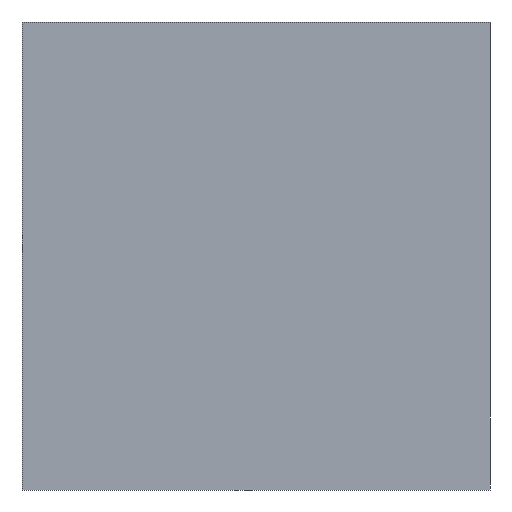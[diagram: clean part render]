
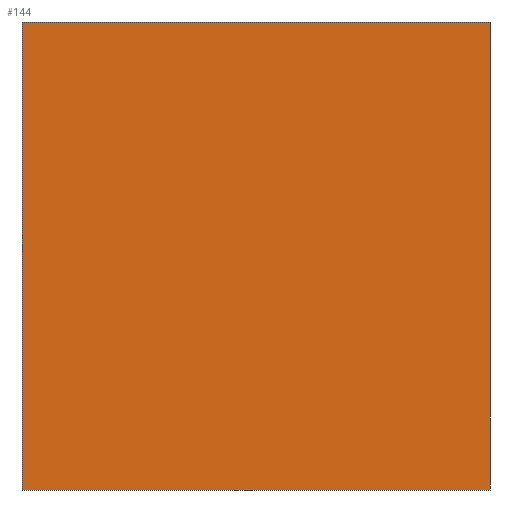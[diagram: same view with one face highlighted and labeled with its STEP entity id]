
A CAD part, front view. The second image highlights one B-rep face of the part: STEP entity #144.
In plain terms, the highlighted planar face has unit normal (0, -1, 0).
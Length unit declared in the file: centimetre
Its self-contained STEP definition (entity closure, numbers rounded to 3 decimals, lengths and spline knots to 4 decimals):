
#32 = VERTEX_POINT ( 'NONE', #571 ) ;
#52 = DIRECTION ( 'NONE',  ( 0., 0., -1. ) ) ;
#118 = CARTESIAN_POINT ( 'NONE',  ( 0., 0., 1000. ) ) ;
#121 = DIRECTION ( 'NONE',  ( 0., 0., 1. ) ) ;
#131 = CARTESIAN_POINT ( 'NONE',  ( 0., 0., 0. ) ) ;
#144 = ADVANCED_FACE ( 'NONE', ( #468 ), #356, .F. ) ;
#153 = EDGE_CURVE ( 'NONE', #32, #291, #396, .T. ) ;
#175 = VECTOR ( 'NONE', #410, 100. ) ;
#250 = EDGE_CURVE ( 'NONE', #32, #316, #312, .T. ) ;
#254 = VERTEX_POINT ( 'NONE', #361 ) ;
#257 = CARTESIAN_POINT ( 'NONE',  ( 0., 0., 1000. ) ) ;
#273 = CARTESIAN_POINT ( 'NONE',  ( 1000., 0., 1000. ) ) ;
#276 = CARTESIAN_POINT ( 'NONE',  ( 1000., 0., 1000. ) ) ;
#291 = VERTEX_POINT ( 'NONE', #131 ) ;
#306 = DIRECTION ( 'NONE',  ( 0., 1., 0. ) ) ;
#307 = CARTESIAN_POINT ( 'NONE',  ( 0., 0., 0. ) ) ;
#312 = LINE ( 'NONE', #118, #476 ) ;
#316 = VERTEX_POINT ( 'NONE', #276 ) ;
#343 = LINE ( 'NONE', #307, #175 ) ;
#356 = PLANE ( 'NONE',  #519 ) ;
#361 = CARTESIAN_POINT ( 'NONE',  ( 1000., 0., 0. ) ) ;
#373 = EDGE_CURVE ( 'NONE', #316, #254, #465, .T. ) ;
#389 = EDGE_LOOP ( 'NONE', ( #504, #499, #408, #494 ) ) ;
#396 = LINE ( 'NONE', #257, #510 ) ;
#408 = ORIENTED_EDGE ( 'NONE', *, *, #250, .F. ) ;
#410 = DIRECTION ( 'NONE',  ( 1., 0., 0. ) ) ;
#448 = VECTOR ( 'NONE', #52, 100. ) ;
#465 = LINE ( 'NONE', #273, #448 ) ;
#468 = FACE_OUTER_BOUND ( 'NONE', #389, .T. ) ;
#476 = VECTOR ( 'NONE', #578, 100. ) ;
#480 = EDGE_CURVE ( 'NONE', #291, #254, #343, .T. ) ;
#494 = ORIENTED_EDGE ( 'NONE', *, *, #153, .T. ) ;
#499 = ORIENTED_EDGE ( 'NONE', *, *, #373, .F. ) ;
#504 = ORIENTED_EDGE ( 'NONE', *, *, #480, .T. ) ;
#510 = VECTOR ( 'NONE', #545, 100. ) ;
#519 = AXIS2_PLACEMENT_3D ( 'NONE', #593, #306, #121 ) ;
#545 = DIRECTION ( 'NONE',  ( 0., 0., -1. ) ) ;
#571 = CARTESIAN_POINT ( 'NONE',  ( 0., 0., 1000. ) ) ;
#578 = DIRECTION ( 'NONE',  ( 1., 0., 0. ) ) ;
#593 = CARTESIAN_POINT ( 'NONE',  ( 0., 0., 1000. ) ) ;
